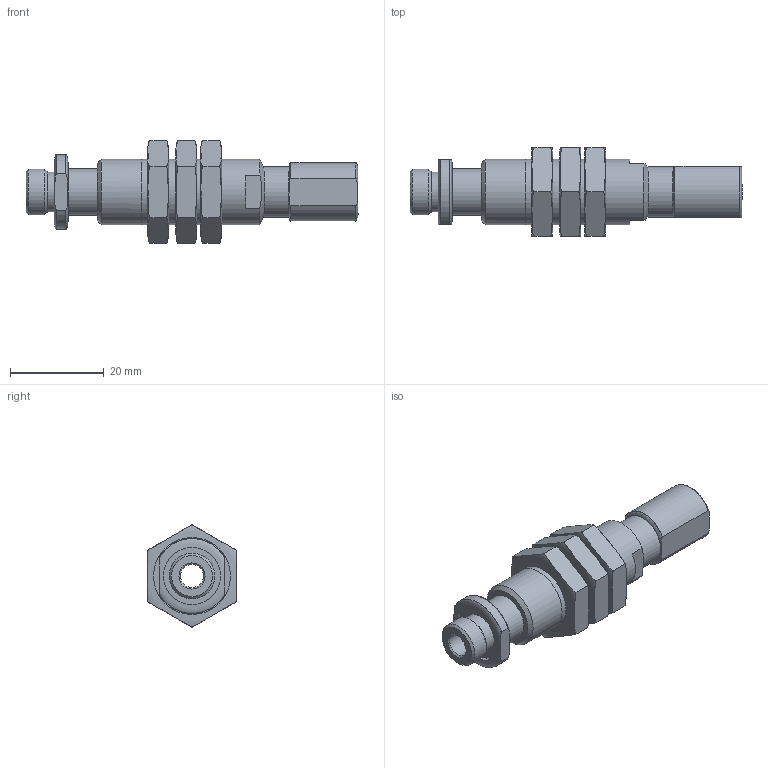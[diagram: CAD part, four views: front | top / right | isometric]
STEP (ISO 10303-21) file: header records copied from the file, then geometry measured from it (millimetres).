
FILE_DESCRIPTION( ( 'Unknown' ), '1' );
FILE_NAME( 'C:/Documents and Settings/Owner/官帕 拳搁/LEVEL SPRING HOMEPAGE/L1815T/L1815T.stp', 'Unknown', ( 'Unknown' ), ( 'Unknown' ), 'PSStep 10.0', 'Unknown', ' ' );
FILE_SCHEMA( ( 'AUTOMOTIVE_DESIGN { 1 0 10303 214 1 1 1 1 }' ) );
Length unit declared in the file: millimetre
Products named in the file (5): Assem1; SHA; HOU; UPPER; NUT(M14XP1)
Bounding box: 70.99 x 19 x 21.94 mm (x, y, z)
Surface area: 15610.9 mm2 (no closed solid volume)
Topology: 0 solids, 137 shells, 137 faces, 497 edges, 436 vertices
Faces by surface type: plane 68, cylinder 41, cone 14, revolution 14
Full cylindrical faces by diameter (mm): 5 x2, 5.5 x2, 6.8 x2, 8 x8, 8.5 x2, 9.8 x4, 10 x4, 10.8 x2, 12.2 x2, 14 x5
Entity records: 4026 total; most frequent: CARTESIAN_POINT 1733, DIRECTION 384, ORIENTED_EDGE 190, EDGE_CURVE 190, VERTEX_POINT 190, AXIS2_PLACEMENT_3D 169, FACE_BOUND 108, EDGE_LOOP 108
